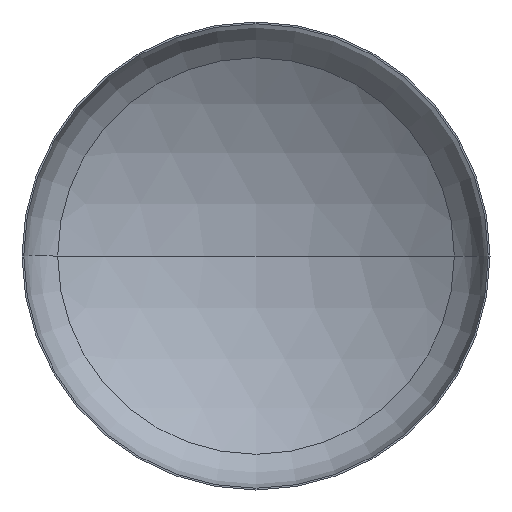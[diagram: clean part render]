
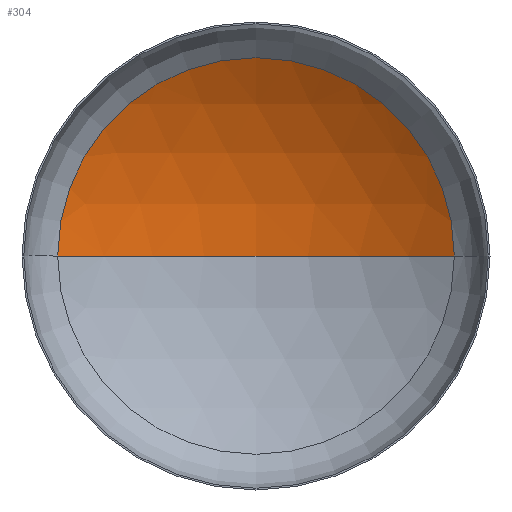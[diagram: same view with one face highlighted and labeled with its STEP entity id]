
A CAD part, front view. The second image highlights one B-rep face of the part: STEP entity #304.
In plain terms, the highlighted spherical face has radius 5600 mm.
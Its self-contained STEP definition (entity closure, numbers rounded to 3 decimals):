
#14 = VERTEX_POINT ( 'NONE', #273 ) ;
#42 = AXIS2_PLACEMENT_3D ( 'NONE', #160, #387, #136 ) ;
#59 = VERTEX_POINT ( 'NONE', #234 ) ;
#88 = VERTEX_POINT ( 'NONE', #228 ) ;
#89 = ORIENTED_EDGE ( 'NONE', *, *, #170, .T. ) ;
#94 = EDGE_LOOP ( 'NONE', ( #307, #89, #367 ) ) ;
#123 = AXIS2_PLACEMENT_3D ( 'NONE', #204, #182, #183 ) ;
#126 = AXIS2_PLACEMENT_3D ( 'NONE', #214, #212, #213 ) ;
#129 = AXIS2_PLACEMENT_3D ( 'NONE', #388, #190, #284 ) ;
#136 = DIRECTION ( 'NONE',  ( -1., 0., 0. ) ) ;
#149 = CIRCLE ( 'NONE', #126, 5600. ) ;
#160 = CARTESIAN_POINT ( 'NONE',  ( 0., -3748.949, 0. ) ) ;
#167 = EDGE_CURVE ( 'NONE', #59, #88, #231, .T. ) ;
#170 = EDGE_CURVE ( 'NONE', #14, #59, #149, .T. ) ;
#172 = EDGE_CURVE ( 'NONE', #14, #88, #343, .T. ) ;
#182 = DIRECTION ( 'NONE',  ( 0., 0., 1. ) ) ;
#183 = DIRECTION ( 'NONE',  ( 1., 0., 0. ) ) ;
#190 = DIRECTION ( 'NONE',  ( 0., -1., 0. ) ) ;
#198 = FACE_OUTER_BOUND ( 'NONE', #94, .T. ) ;
#204 = CARTESIAN_POINT ( 'NONE',  ( 0., -3748.949, 0. ) ) ;
#212 = DIRECTION ( 'NONE',  ( 0., 0., -1. ) ) ;
#213 = DIRECTION ( 'NONE',  ( -1., 0., 0. ) ) ;
#214 = CARTESIAN_POINT ( 'NONE',  ( 0., -3748.949, 0. ) ) ;
#228 = CARTESIAN_POINT ( 'NONE',  ( -2966.018, 1001.076, 0. ) ) ;
#231 = CIRCLE ( 'NONE', #129, 2966.018 ) ;
#234 = CARTESIAN_POINT ( 'NONE',  ( 2966.018, 1001.076, 0. ) ) ;
#273 = CARTESIAN_POINT ( 'NONE',  ( 0., 1851.051, 0. ) ) ;
#284 = DIRECTION ( 'NONE',  ( 1., 0., 0. ) ) ;
#304 = ADVANCED_FACE ( 'NONE', ( #198 ), #377, .F. ) ;
#307 = ORIENTED_EDGE ( 'NONE', *, *, #172, .F. ) ;
#343 = CIRCLE ( 'NONE', #123, 5600. ) ;
#367 = ORIENTED_EDGE ( 'NONE', *, *, #167, .T. ) ;
#377 = SPHERICAL_SURFACE ( 'NONE', #42, 5600. ) ;
#387 = DIRECTION ( 'NONE',  ( 0., 0., -1. ) ) ;
#388 = CARTESIAN_POINT ( 'NONE',  ( 0., 1001.076, 0. ) ) ;
